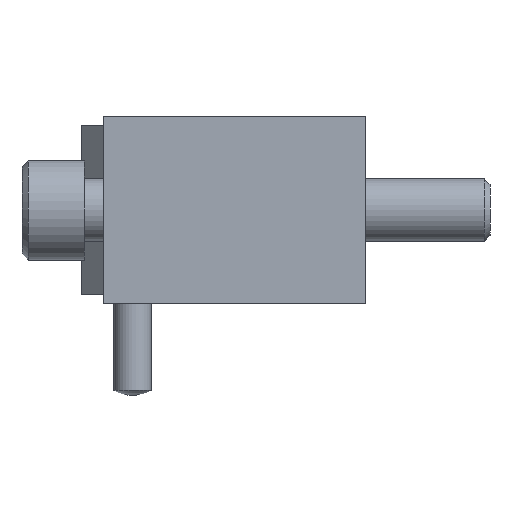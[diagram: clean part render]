
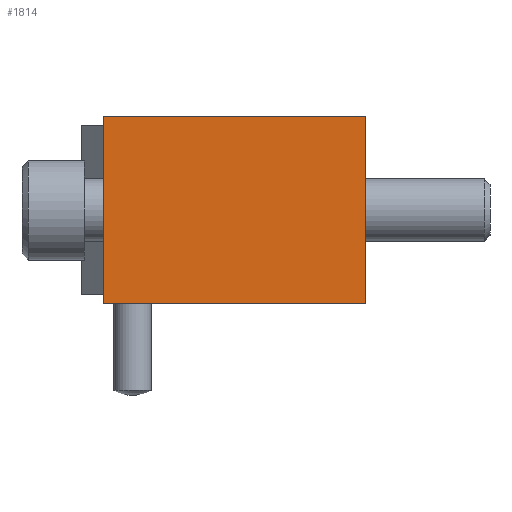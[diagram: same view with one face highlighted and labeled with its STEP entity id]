
A CAD part, left-side view. The second image highlights one B-rep face of the part: STEP entity #1814.
In plain terms, the highlighted planar face has unit normal (-1, 0, 0).
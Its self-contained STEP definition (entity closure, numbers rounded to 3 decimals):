
#173=ORIENTED_EDGE('',*,*,#625,.T.);
#174=ORIENTED_EDGE('',*,*,#626,.F.);
#175=ORIENTED_EDGE('',*,*,#627,.F.);
#176=ORIENTED_EDGE('',*,*,#628,.T.);
#625=EDGE_CURVE('',#851,#852,#1020,.T.);
#626=EDGE_CURVE('',#853,#852,#1021,.T.);
#627=EDGE_CURVE('',#854,#853,#1022,.T.);
#628=EDGE_CURVE('',#854,#851,#1023,.T.);
#851=VERTEX_POINT('',#2781);
#852=VERTEX_POINT('',#2782);
#853=VERTEX_POINT('',#2784);
#854=VERTEX_POINT('',#2786);
#1020=LINE('',#2780,#1192);
#1021=LINE('',#2783,#1193);
#1022=LINE('',#2785,#1194);
#1023=LINE('',#2787,#1195);
#1192=VECTOR('',#2238,1000.);
#1193=VECTOR('',#2239,1000.);
#1194=VECTOR('',#2240,1000.);
#1195=VECTOR('',#2241,1000.);
#1364=EDGE_LOOP('',(#173,#174,#175,#176));
#1546=FACE_BOUND('',#1364,.T.);
#1729=PLANE('',#2049);
#1814=ADVANCED_FACE('',(#1546),#1729,.F.);
#2049=AXIS2_PLACEMENT_3D('',#2779,#2236,#2237);
#2236=DIRECTION('',(1.,0.,0.));
#2237=DIRECTION('',(0.,0.,-1.));
#2238=DIRECTION('',(0.,0.,1.));
#2239=DIRECTION('',(0.,-1.,0.));
#2240=DIRECTION('',(0.,0.,1.));
#2241=DIRECTION('',(0.,-1.,0.));
#2779=CARTESIAN_POINT('',(0.,42.,-15.));
#2780=CARTESIAN_POINT('',(0.,0.,-15.));
#2781=CARTESIAN_POINT('',(0.,0.,-15.));
#2782=CARTESIAN_POINT('',(0.,0.,15.));
#2783=CARTESIAN_POINT('',(0.,42.,15.));
#2784=CARTESIAN_POINT('',(0.,42.,15.));
#2785=CARTESIAN_POINT('',(0.,42.,-15.));
#2786=CARTESIAN_POINT('',(0.,42.,-15.));
#2787=CARTESIAN_POINT('',(0.,42.,-15.));
